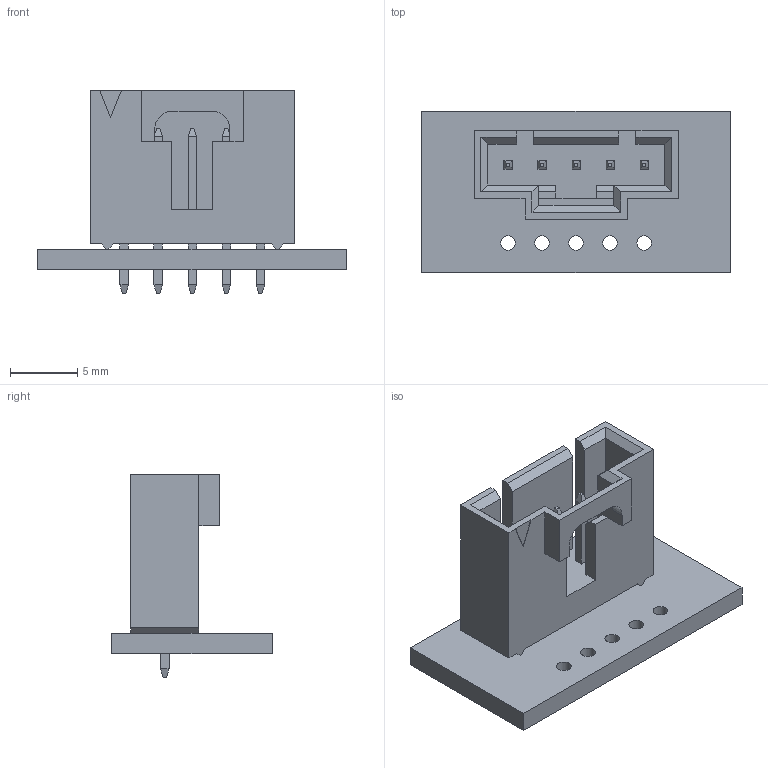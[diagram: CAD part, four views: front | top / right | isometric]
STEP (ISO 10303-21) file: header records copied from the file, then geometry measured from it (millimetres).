
FILE_DESCRIPTION (( 'STEP AP214' ), '1' );
FILE_NAME ('20.020.00.GRU.STEP', '2018-03-26T08:01:21', ( '' ), ( '' ), 'SwSTEP 2.0', 'SolidWorks 2017', '' );
FILE_SCHEMA (( 'AUTOMOTIVE_DESIGN' ));
Length unit declared in the file: millimetre
Products named in the file (5): 705430004; 40.000.16.EIN; 20.020.00.GRU
Assembly tree (2 placements, depth 2):
  705430004
  40.000.16.EIN
  20.020.00.GRU
    40.000.16.EIN
    705430004
Bounding box: 23 x 12 x 15.11 mm (x, y, z)
Volume: 916.9 mm3; surface area: 1703.3 mm2
Topology: 2 solids, 2 shells, 163 faces, 403 edges, 252 vertices
Faces by surface type: plane 151, cylinder 12
Full cylindrical faces by diameter (mm): 1.09 x10
Entity records: 4811 total; most frequent: CARTESIAN_POINT 814, ORIENTED_EDGE 786, DIRECTION 755, EDGE_CURVE 393, LINE 369, VECTOR 369, VERTEX_POINT 252, EDGE_LOOP 203
